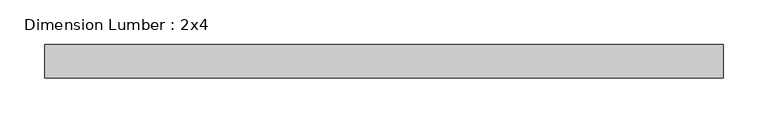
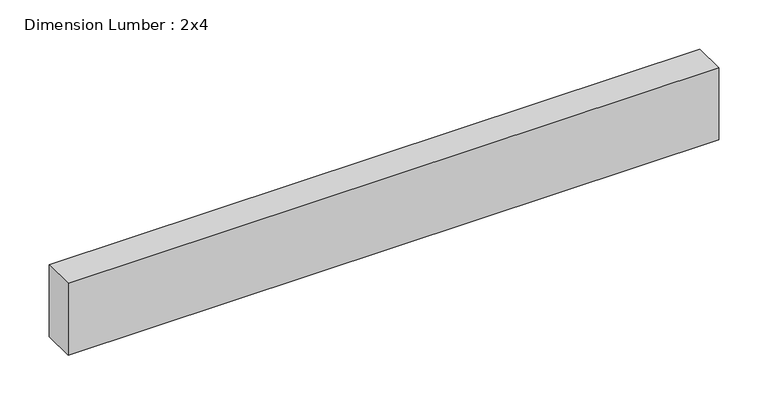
"""IFC4 building model written with IfcOpenShell, lengths in millimetres: beam geometry, Dimension Lumber : 2x4."""

from ifc_helpers import new_model, si_unit, frame, origin, place, context, project, spatial, polyline, outline, extrude, source, transform, mapped, element, save


def dimension_lumber_2x4_51f88611(model_context):
    return source(origin(), model_context, "Body", "SweptSolid", [
        extrude(outline(polyline([(381.0, 19.05), (381.0, -19.05), (-381.0, -19.05), (-381.0, 19.05), (381.0, 19.05)])), frame((0.0, 0.0, -44.45), z_axis=(0.0, 0.0, 1.0), x_axis=(1.0, 0.0, 0.0)), (0.0, 0.0, 1.0), 88.9),
    ])


if __name__ == "__main__":
    model = new_model("IFC4")
    model_context = context("Model", 3, world=origin())
    ifc_project = project(units=[si_unit("LENGTHUNIT", "METRE", prefix="MILLI")], contexts=[model_context])
    site = spatial("IfcSite", under=ifc_project)
    building = spatial("IfcBuilding", under=site)
    placement = place(None, origin())
    dimension_lumber_2x4_shape = dimension_lumber_2x4_51f88611(model_context)
    element("IfcBeam", 1, ObjectType="Dimension Lumber : 2x4", at=placement, inside=building, context=model_context, shape_type="MappedRepresentation", body=[
        mapped(dimension_lumber_2x4_shape, transform((0.0, 0.0, 0.0), x_axis=(1.0, 0.0, 0.0), y_axis=(0.0, 1.0, 0.0), z_axis=(0.0, 0.0, 1.0))),
    ])
    save(model, "model.ifc")
